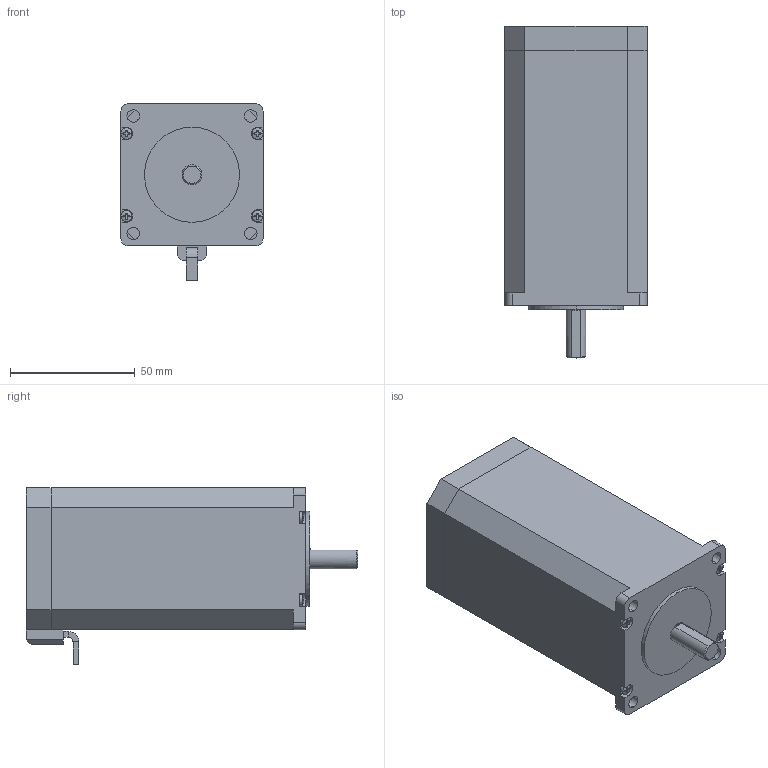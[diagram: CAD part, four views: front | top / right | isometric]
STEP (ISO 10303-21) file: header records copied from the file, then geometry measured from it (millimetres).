
FILE_DESCRIPTION (( 'STEP AP203' ), '1' );
FILE_NAME ('57BG112-40A4-002 贝格达、前径8长21扁19厚7.5、电缆线0.5m.STEP', '2024-10-13T14:21:26', ( '' ), ( '' ), 'SwSTEP 2.0', 'SolidWorks 2022', '' );
FILE_SCHEMA (( 'CONFIG_CONTROL_DESIGN' ));
Length unit declared in the file: millimetre
Products named in the file (1): 57BG112-40A4-002    贝格达、前径8长21扁19厚7.5、电缆线0.5m
Bounding box: 57.04 x 133 x 70.8 mm (x, y, z)
Volume: 353691.3 mm3; surface area: 38398.2 mm2
Topology: 6 solids, 6 shells, 188 faces, 481 edges, 316 vertices
Faces by surface type: plane 124, cylinder 54, sphere 8, cone 2
Entity records: 5844 total; most frequent: CARTESIAN_POINT 1174, DIRECTION 977, ORIENTED_EDGE 962, EDGE_CURVE 481, AXIS2_PLACEMENT_3D 357, VERTEX_POINT 316, VECTOR 263, LINE 263
